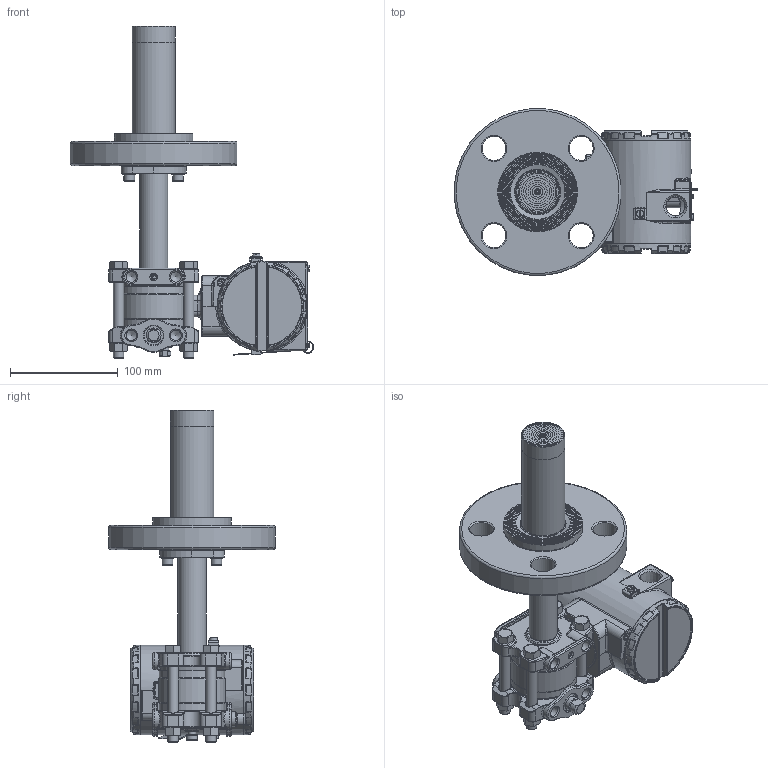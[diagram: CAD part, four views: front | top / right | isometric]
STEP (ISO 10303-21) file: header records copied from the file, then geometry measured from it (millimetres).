
FILE_DESCRIPTION(/* description */ (''),/* implementation_level */ '2;1');
FILE_NAME(/* name */ 'F:\Area\Desenvolvimento_2\Projects\Sensor\projetos\LD30X\montagens 3d - clientes\SELO NIVEL\LD30XL 1-1-2-600 RF ext 100 ref 1-4NPT purga acima.stp',/* time_stamp */ '2023-02-10T15:02:59-03:00',/* author */ ('inventor02'),/* organization */ (''),/* preprocessor_version */ 'ST-DEVELOPER v17',/* originating_system */ 'Autodesk Inventor 2019',/* authorisation */ '');
FILE_SCHEMA (('CONFIG_CONTROL_DESIGN'));
Products named in the file (41): LD30XL 1-1-2-600 RF ext 100 ref 1-4NPT purga acima; 204-0301-L-1-1-2 600 RF ext 100 purga acima; nivel fx3 com baixa diferencial 1-4NPT purga acima; involucro fx0-3 apos a usinagem final; flange diferencial std purga; 101-C-7484-01 flange selo nivel VR; 201-A-0504-tubo união teste 1; bujao 1-4NPT; Sangria; Porca 3-8 x 16 UNC; Paraf. 3-8 x 16 UNC; adaptação tubo x flanges 1-1-2 a 4pol; 101-B-0161-anel cortado do tubo - teste1; 101-B-0162-flange fixação tubo; ANSI B18.3.1M - M6x1 x 16; DIN 127 - A 6; flange 1-1-2 600 ext 100; 101-B-7699-01 ext 2-100; 101-B-5190-03; 101-C-3332-02; carcaça vazia com tampas e plaqueta; carcaça LD inox sem letras; Subconjunto plaqueta 300; Plaqueta transmissor; Parafuso da Plaqueta; Rebite da Plaqueta; 096-A-0169-03; 101-A-0502-01; Chapa aterramento externo; ISO 1207 - M4 x 8; DIN 915 - M6 x 10; ANSI B18.3.1M - M4x0,7 x 8; Subconjunto tampa com visor aluminio; tampa pintada; VIDRO DO VISOR; oring 41x1 vidro tampa; Trava do vidro da tampa com visor; trava do vidro VH256; Subconjunto tampa sem visor-aluminio; tampa cega 300 pintada p0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
Assembly tree (51 placements, depth 4):
  LD30XL 1-1-2-600 RF ext 100 ref 1-4NPT purga acima
    204-0301-L-1-1-2 600 RF ext 100 purga acima
      nivel fx3 com baixa diferencial 1-4NPT purga acima
        involucro fx0-3 apos a usinagem final
        flange diferencial std purga
        101-C-7484-01 flange selo nivel VR
        201-A-0504-tubo união teste 1
        DIN 915 - M6 x 10
        bujao 1-4NPT
        Sangria
        Porca 3-8 x 16 UNC  x4
        Paraf. 3-8 x 16 UNC  x4
      adaptação tubo x flanges 1-1-2 a 4pol
        101-B-0161-anel cortado do tubo - teste1
        101-B-0162-flange fixação tubo
        ANSI B18.3.1M - M6x1 x 16  x2
        DIN 127 - A 6  x2
      flange 1-1-2 600 ext 100
        101-B-7699-01 ext 2-100
        101-B-5190-03
        101-C-3332-02
    carcaça vazia com tampas e plaqueta
      carcaça LD inox sem letras
      Subconjunto plaqueta 300
        Plaqueta transmissor
        Parafuso da Plaqueta
        Rebite da Plaqueta
        096-A-0169-03
        101-A-0502-01
      Chapa aterramento externo
      ISO 1207 - M4 x 8
      DIN 915 - M6 x 10
      ANSI B18.3.1M - M4x0,7 x 8  x2
      Subconjunto tampa com visor aluminio
        tampa pintada
        VIDRO DO VISOR
        oring 41x1 vidro tampa
        Trava do vidro da tampa com visor
        trava do vidro VH256
        00034775-0
      Subconjunto tampa sem visor-aluminio
        tampa cega 300 pintada p0
        00034775-0
Bounding box: 225.49 x 154.41 x 307.6 mm (x, y, z)
Volume: 1061618 mm3; surface area: 335191.7 mm2
Topology: 43 solids, 43 shells, 2726 faces, 6537 edges, 3867 vertices
Faces by surface type: bspline 667, cylinder 656, plane 560, torus 469, cone 248, sphere 126
Full cylindrical faces by diameter (mm): 2 x4, 2.1 x2, 2.459 x5, 2.5 x1, 2.642 x1, 2.7 x1, 2.8 x1, 3 x4, 3.242 x4, 3.5 x5, 3.571 x1, 4 x5, 4.3 x1, 4.4 x1, 4.917 x4, 5 x1, 5.5 x3, 6 x6, 6.647 x1, 7 x7, 7.087 x2, 7.6 x2, 7.798 x4, 8 x1, 8.7 x2, 9.525 x4, 9.728 x6, 10 x2, 10.5 x8, 10.719 x2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
Entity records: 94293 total; most frequent: CARTESIAN_POINT 34605, DIRECTION 12303, ORIENTED_EDGE 12254, EDGE_CURVE 6127, AXIS2_PLACEMENT_3D 5430, VERTEX_POINT 3673, CIRCLE 3215, EDGE_LOOP 2766
